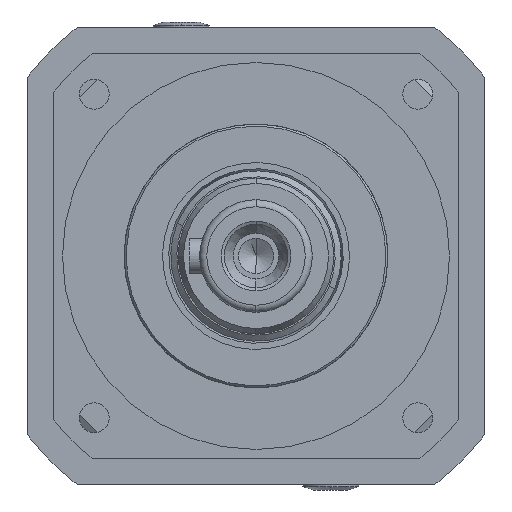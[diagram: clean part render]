
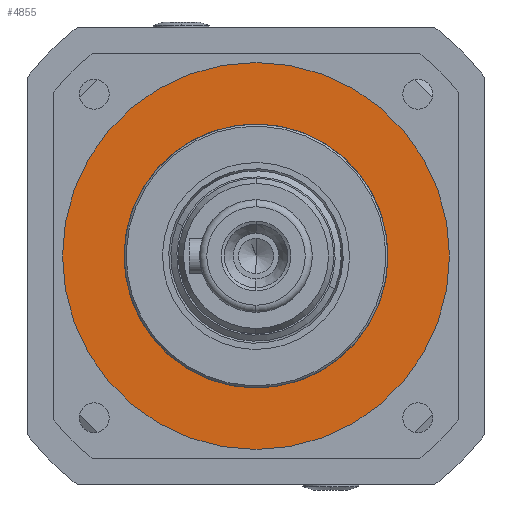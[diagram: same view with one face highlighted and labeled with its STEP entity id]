
A CAD part, left-side view. The second image highlights one B-rep face of the part: STEP entity #4855.
In plain terms, the highlighted planar face has unit normal (-1, 0, 0).
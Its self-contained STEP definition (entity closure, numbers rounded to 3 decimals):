
#517 = CARTESIAN_POINT ( 'NONE',  ( -67., 0., -55. ) ) ;
#625 = EDGE_CURVE ( 'NONE', #17216, #3250, #8646, .T. ) ;
#647 = CARTESIAN_POINT ( 'NONE',  ( -67., 0., 55. ) ) ;
#670 = AXIS2_PLACEMENT_3D ( 'NONE', #6678, #16848, #8108 ) ;
#830 = DIRECTION ( 'NONE',  ( 0., 0., 1. ) ) ;
#950 = CIRCLE ( 'NONE', #17479, 55. ) ;
#1077 = DIRECTION ( 'NONE',  ( -1., 0., 0. ) ) ;
#1143 = CARTESIAN_POINT ( 'NONE',  ( -67., 0., 0. ) ) ;
#2639 = CARTESIAN_POINT ( 'NONE',  ( -67., 0., 0. ) ) ;
#3250 = VERTEX_POINT ( 'NONE', #17318 ) ;
#3760 = CARTESIAN_POINT ( 'NONE',  ( -67., 0., 37.5 ) ) ;
#4103 = DIRECTION ( 'NONE',  ( 0., 0., 1. ) ) ;
#4472 = AXIS2_PLACEMENT_3D ( 'NONE', #1143, #1077, #14225 ) ;
#4521 = AXIS2_PLACEMENT_3D ( 'NONE', #14955, #6254, #16428 ) ;
#4778 = PLANE ( 'NONE',  #4521 ) ;
#4855 = ADVANCED_FACE ( 'NONE', ( #8084, #11973 ), #4778, .F. ) ;
#6254 = DIRECTION ( 'NONE',  ( 1., 0., 0. ) ) ;
#6678 = CARTESIAN_POINT ( 'NONE',  ( -67., 0., 0. ) ) ;
#7313 = EDGE_LOOP ( 'NONE', ( #7584, #7764 ) ) ;
#7584 = ORIENTED_EDGE ( 'NONE', *, *, #9048, .T. ) ;
#7674 = AXIS2_PLACEMENT_3D ( 'NONE', #18332, #9561, #830 ) ;
#7764 = ORIENTED_EDGE ( 'NONE', *, *, #8942, .T. ) ;
#8084 = FACE_BOUND ( 'NONE', #17119, .T. ) ;
#8108 = DIRECTION ( 'NONE',  ( 0., 0., 1. ) ) ;
#8249 = CIRCLE ( 'NONE', #670, 37.5 ) ;
#8419 = ORIENTED_EDGE ( 'NONE', *, *, #14674, .F. ) ;
#8646 = CIRCLE ( 'NONE', #4472, 37.5 ) ;
#8899 = VERTEX_POINT ( 'NONE', #517 ) ;
#8942 = EDGE_CURVE ( 'NONE', #8899, #9944, #13965, .T. ) ;
#9048 = EDGE_CURVE ( 'NONE', #9944, #8899, #950, .T. ) ;
#9062 = ORIENTED_EDGE ( 'NONE', *, *, #625, .F. ) ;
#9561 = DIRECTION ( 'NONE',  ( -1., 0., 0. ) ) ;
#9944 = VERTEX_POINT ( 'NONE', #647 ) ;
#11973 = FACE_OUTER_BOUND ( 'NONE', #7313, .T. ) ;
#12816 = DIRECTION ( 'NONE',  ( -1., 0., 0. ) ) ;
#13965 = CIRCLE ( 'NONE', #7674, 55. ) ;
#14225 = DIRECTION ( 'NONE',  ( 0., 0., 1. ) ) ;
#14674 = EDGE_CURVE ( 'NONE', #3250, #17216, #8249, .T. ) ;
#14955 = CARTESIAN_POINT ( 'NONE',  ( -67., 0., 0. ) ) ;
#16428 = DIRECTION ( 'NONE',  ( 0., 0., -1. ) ) ;
#16848 = DIRECTION ( 'NONE',  ( -1., 0., 0. ) ) ;
#17119 = EDGE_LOOP ( 'NONE', ( #9062, #8419 ) ) ;
#17216 = VERTEX_POINT ( 'NONE', #3760 ) ;
#17318 = CARTESIAN_POINT ( 'NONE',  ( -67., 0., -37.5 ) ) ;
#17479 = AXIS2_PLACEMENT_3D ( 'NONE', #2639, #12816, #4103 ) ;
#18332 = CARTESIAN_POINT ( 'NONE',  ( -67., 0., 0. ) ) ;
